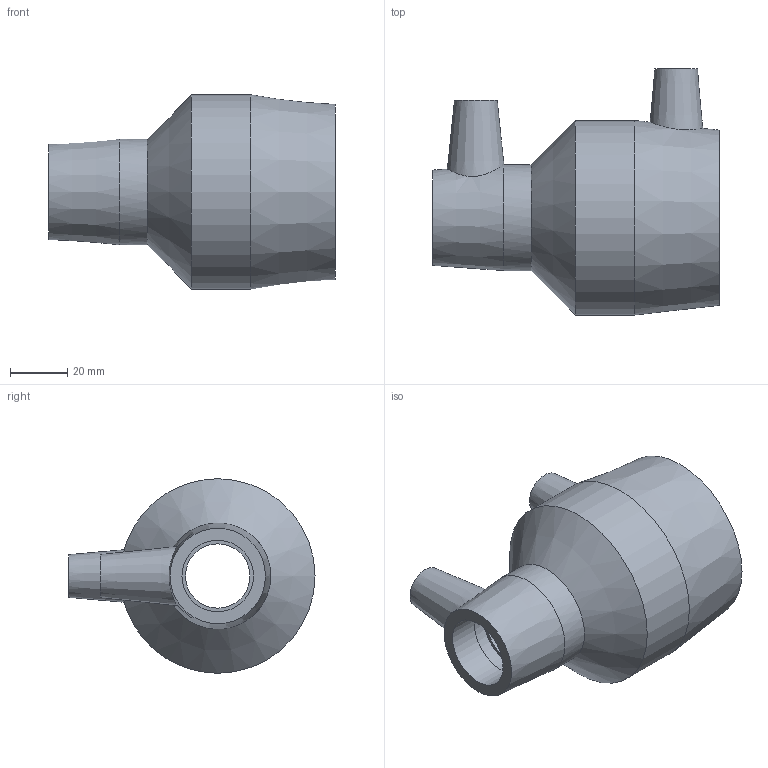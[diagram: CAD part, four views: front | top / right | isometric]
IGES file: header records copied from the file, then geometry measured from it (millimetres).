
Global section: file name: 491104050025.ipt; native system: Autodesk Inventor 2015; preprocessor: unknown; author: KIM; date: 20171106.093719; units: millimetre
Bounding box: 100 x 86 x 68 mm (x, y, z)
Volume: 121990.4 mm3; surface area: 36028.5 mm2
Topology: 1 solids, 1 shells, 32 faces, 74 edges, 52 vertices
Faces by surface type: plane 12, revolution 11, cone 5, cylinder 4
Full cylindrical faces by diameter (mm): 4 x2, 37 x1, 68 x1
